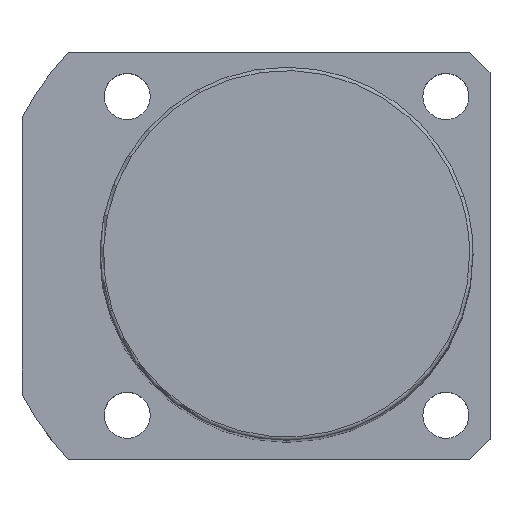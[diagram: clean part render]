
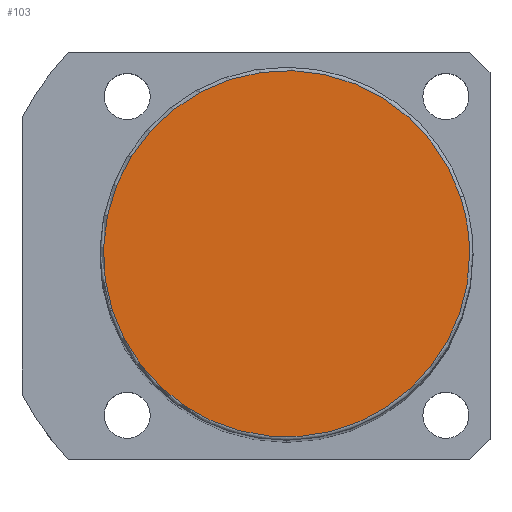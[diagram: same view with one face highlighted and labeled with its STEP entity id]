
A CAD part, top view. The second image highlights one B-rep face of the part: STEP entity #103.
In plain terms, the highlighted planar face has unit normal (0, 0, 1).
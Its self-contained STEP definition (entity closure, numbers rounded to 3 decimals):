
#16=CARTESIAN_POINT('',(-25.679,-8.343,191.0));
#17=VERTEX_POINT('',#16);
#54=CARTESIAN_POINT('',(25.679,8.343,191.0));
#55=VERTEX_POINT('',#54);
#63=CARTESIAN_POINT('',(27.0,0.0,191.0));
#64=VERTEX_POINT('',#63);
#65=CARTESIAN_POINT('',(0.0,0.0,191.0));
#66=DIRECTION('',(0.0,0.0,1.0));
#67=DIRECTION('',(1.0,0.0,0.0));
#68=AXIS2_PLACEMENT_3D('',#65,#66,#67);
#69=CIRCLE('',#68,27.0);
#70=EDGE_CURVE('no 898',#64,#55,#69,.T.);
#72=CARTESIAN_POINT('',(0.0,0.0,191.0));
#73=DIRECTION('',(0.0,0.0,1.0));
#74=DIRECTION('',(1.0,0.0,0.0));
#75=AXIS2_PLACEMENT_3D('',#72,#73,#74);
#76=CIRCLE('',#75,27.0);
#77=EDGE_CURVE('no 902',#17,#64,#76,.T.);
#87=ORIENTED_EDGE('',*,*,#70,.T.);
#88=CARTESIAN_POINT('',(0.0,0.0,191.0));
#89=DIRECTION('',(0.0,0.0,1.0));
#90=DIRECTION('',(1.0,0.0,0.0));
#91=AXIS2_PLACEMENT_3D('',#88,#89,#90);
#92=CIRCLE('',#91,27.0);
#93=EDGE_CURVE('no 911',#55,#17,#92,.T.);
#94=ORIENTED_EDGE('',*,*,#93,.T.);
#95=ORIENTED_EDGE('',*,*,#77,.T.);
#96=EDGE_LOOP('',(#87,#94,#95));
#97=FACE_OUTER_BOUND('',#96,.T.);
#98=CARTESIAN_POINT('',(0.0,0.0,191.0));
#99=DIRECTION('',(0.0,0.0,1.0));
#100=DIRECTION('',(1.0,0.0,0.0));
#101=AXIS2_PLACEMENT_3D('',#98,#99,#100);
#102=PLANE('',#101);
#103=ADVANCED_FACE('no 904',(#97),#102,.T.);
